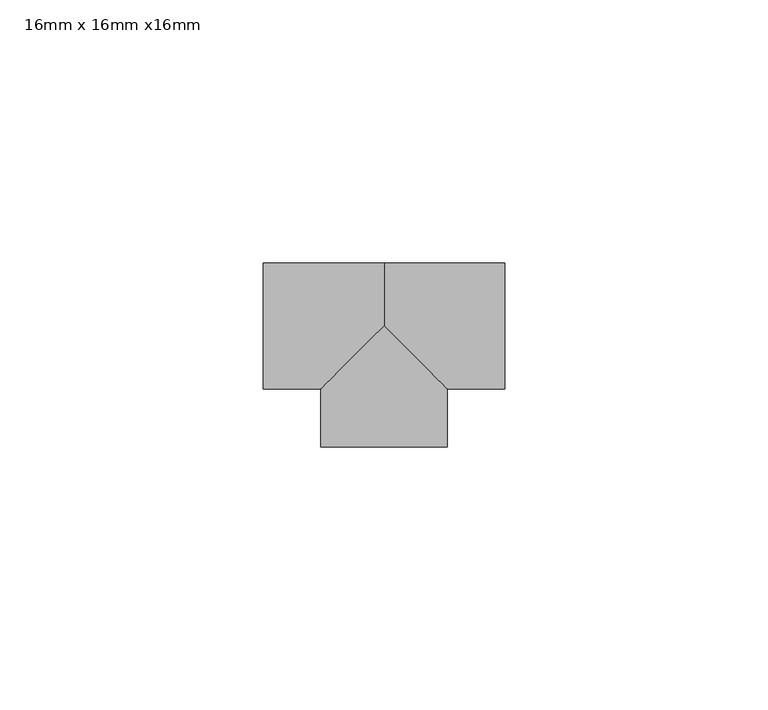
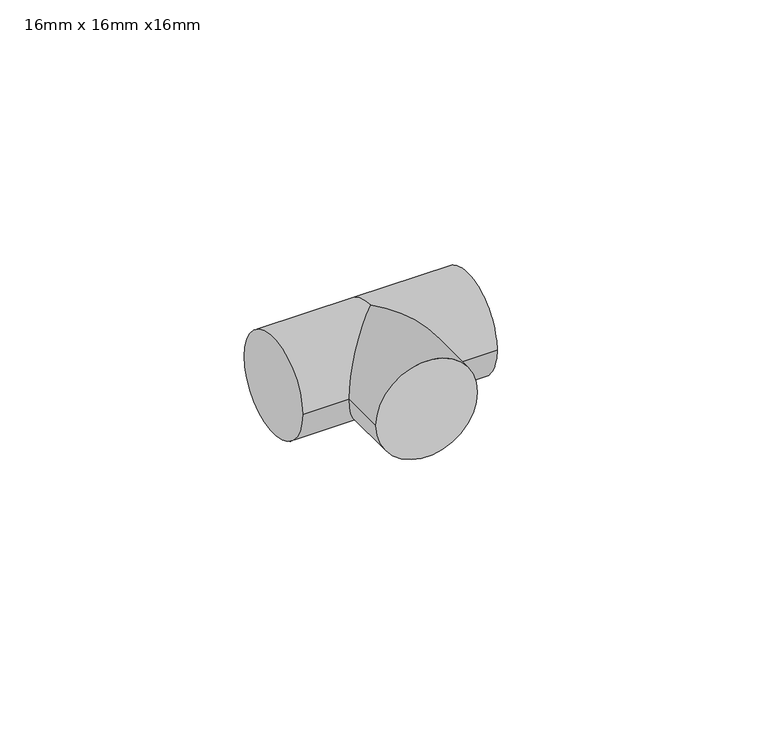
"""IFC4 building model written with IfcOpenShell, lengths in millimetres: pipe fitting geometry, PipeFitting_HTA_CPVC_Tees90° : 16mm x 16mm x16mm."""

from ifc_helpers import new_model, si_unit, frame, origin, place, context, project, spatial, circle_curve, ellipse_curve, source, transform, mapped, element, save
from ifc_brep_helpers import plane_surface, cylinder_surface, advanced_brep


def pipe_fitting_16mm_x_16mm_x16mm_5fa7684f(model_context):
    return source(origin(), model_context, "Body", "AdvancedBrep", [
        advanced_brep(
        [(-12.0, -23.0, 0.0), (12.0, -23.0, 0.0), (12.0, -12.0, 0.0), (0.0, 0.0, 12.0), (-12.0, -12.0, 0.0), (0.0, 0.0, -12.0), (-23.0, -12.0, 0.0), (-23.0, 12.0, 0.0), (0.0, 12.0, 0.0), (23.0, -12.0, 0.0), (23.0, 12.0, 0.0)],
        [
            (0, 1, circle_curve(frame((0.0, -23.0, 0.0), z_axis=(0.0, -1.0, 0.0), x_axis=(1.0, 0.0, 0.0)), 12.0)),
            (1, 0, circle_curve(frame((0.0, -23.0, 0.0), z_axis=(0.0, -1.0, 0.0), x_axis=(1.0, 0.0, 0.0)), 12.0)),
            (1, 2),
            (2, 3, ellipse_curve(frame((0.0, 0.0, 0.0), z_axis=(-0.7071067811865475, -0.7071067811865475, 0.0), x_axis=(-0.7071067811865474, 0.7071067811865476, 0.0)), 16.9705627, 12.0)),
            (3, 4, ellipse_curve(frame((0.0, 0.0, 0.0), z_axis=(0.7071067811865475, -0.7071067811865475, 0.0), x_axis=(0.7071067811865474, 0.7071067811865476, 0.0)), 16.9705627, 12.0)),
            (4, 0),
            (4, 5, ellipse_curve(frame((0.0, 0.0, 0.0), z_axis=(0.7071067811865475, -0.7071067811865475, 0.0), x_axis=(0.7071067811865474, 0.7071067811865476, 0.0)), 16.9705627, 12.0)),
            (5, 2, ellipse_curve(frame((0.0, 0.0, 0.0), z_axis=(-0.7071067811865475, -0.7071067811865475, 0.0), x_axis=(-0.7071067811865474, 0.7071067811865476, 0.0)), 16.9705627, 12.0)),
            (6, 7, circle_curve(frame((-23.0, 0.0, 0.0), z_axis=(-1.0, 0.0, 0.0), x_axis=(0.0, 1.0, 0.0)), 12.0)),
            (7, 6, circle_curve(frame((-23.0, 0.0, 0.0), z_axis=(-1.0, 0.0, 0.0), x_axis=(0.0, 1.0, 0.0)), 12.0)),
            (6, 4),
            (3, 8, circle_curve(frame((0.0, 0.0, 0.0), z_axis=(-1.0, 0.0, 0.0), x_axis=(0.0, 1.0, 0.0)), 12.0)),
            (8, 7),
            (8, 5, circle_curve(frame((0.0, 0.0, 0.0), z_axis=(-1.0, 0.0, 0.0), x_axis=(0.0, 1.0, 0.0)), 12.0)),
            (9, 10, circle_curve(frame((23.0, 0.0, 0.0), z_axis=(1.0, 0.0, 0.0), x_axis=(0.0, 1.0, 0.0)), 12.0)),
            (10, 9, circle_curve(frame((23.0, 0.0, 0.0), z_axis=(1.0, 0.0, 0.0), x_axis=(0.0, 1.0, 0.0)), 12.0)),
            (10, 8),
            (2, 9),
        ],
        [
            plane_surface(frame((0.0, -23.0, 0.0), z_axis=(0.0, -1.0, 0.0), x_axis=(0.0, 0.0, 1.0))),
            cylinder_surface(frame((0.0, 0.0, 0.0), z_axis=(0.0, 1.0, 0.0), x_axis=(1.0, 0.0, 0.0)), 12.0),
            plane_surface(frame((-23.0, 0.0, 0.0), z_axis=(-1.0, 0.0, 0.0), x_axis=(0.0, 0.0, 1.0))),
            cylinder_surface(frame((-23.0, 0.0, 0.0), z_axis=(-1.0, 0.0, 0.0), x_axis=(0.0, 1.0, 0.0)), 12.0),
            plane_surface(frame((23.0, 0.0, 0.0), z_axis=(1.0, 0.0, 0.0), x_axis=(0.0, 0.0, 1.0))),
            cylinder_surface(frame((0.0, 0.0, 0.0), z_axis=(-1.0, 0.0, 0.0), x_axis=(0.0, 1.0, 0.0)), 12.0),
        ],
        [
            (0, [[1, 2]]),
            (1, [[-2, 3, 4, 5, 6]]),
            (1, [[-1, -6, 7, 8, -3]]),
            (2, [[9, 10]]),
            (3, [[-9, 11, -5, 12, 13]]),
            (3, [[-10, -13, 14, -7, -11]]),
            (4, [[15, 16]]),
            (5, [[-16, 17, -12, -4, 18]]),
            (5, [[-15, -18, -8, -14, -17]]),
        ],
    ),
    ])


if __name__ == "__main__":
    model = new_model("IFC4")
    model_context = context("Model", 3, world=origin())
    ifc_project = project(units=[si_unit("LENGTHUNIT", "METRE", prefix="MILLI")], contexts=[model_context])
    site = spatial("IfcSite", under=ifc_project)
    building = spatial("IfcBuilding", under=site)
    placement = place(None, origin())
    pipe_fitting_16mm_x_16mm_x16mm_shape = pipe_fitting_16mm_x_16mm_x16mm_5fa7684f(model_context)
    element("IfcPipeFitting", 1, ObjectType="PipeFitting_HTA_CPVC_Tees90° : 16mm x 16mm x16mm", at=placement, inside=building, context=model_context, shape_type="MappedRepresentation", body=[
        mapped(pipe_fitting_16mm_x_16mm_x16mm_shape, transform((0.0, 0.0, 0.0), x_axis=(1.0, 0.0, 0.0), y_axis=(0.0, 1.0, 0.0), z_axis=(0.0, 0.0, 1.0))),
    ])
    save(model, "model.ifc")
